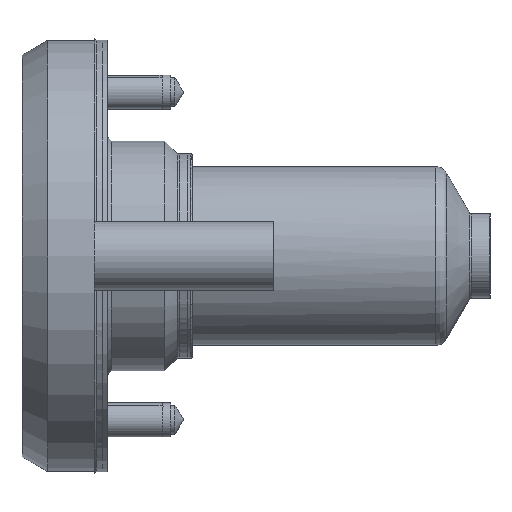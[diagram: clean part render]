
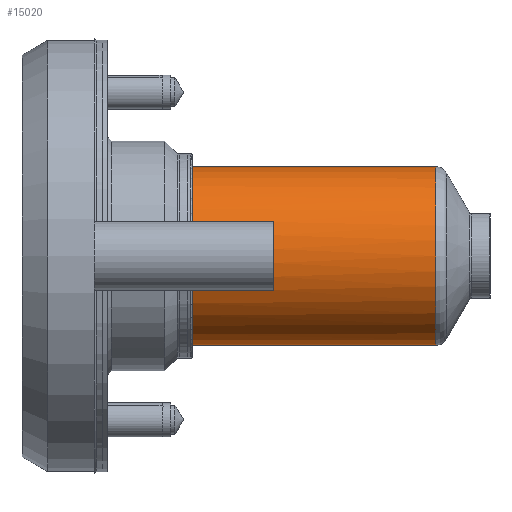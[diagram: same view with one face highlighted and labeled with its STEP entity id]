
A CAD part, left-side view. The second image highlights one B-rep face of the part: STEP entity #15020.
In plain terms, the highlighted cylindrical face has radius 21 mm (diameter 42 mm), a partial arc.
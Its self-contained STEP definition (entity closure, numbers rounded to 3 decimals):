
#377 = AXIS2_PLACEMENT_3D ( 'NONE', #9352, #9497, #7148 ) ;
#954 = ORIENTED_EDGE ( 'NONE', *, *, #21603, .F. ) ;
#1030 = DIRECTION ( 'NONE',  ( 0., 0., -1. ) ) ;
#1055 = CARTESIAN_POINT ( 'NONE',  ( 0., -72.228, 0. ) ) ;
#1283 = EDGE_CURVE ( 'NONE', #21577, #19806, #12819, .T. ) ;
#1598 = CARTESIAN_POINT ( 'NONE',  ( -19.416, -93.07, -8. ) ) ;
#2076 = ORIENTED_EDGE ( 'NONE', *, *, #13864, .T. ) ;
#2157 = DIRECTION ( 'NONE',  ( 0., -1., 0. ) ) ;
#2428 = CARTESIAN_POINT ( 'NONE',  ( -19.416, -15., -8. ) ) ;
#2855 = CARTESIAN_POINT ( 'NONE',  ( 0., -72.228, 21. ) ) ;
#3035 = CARTESIAN_POINT ( 'NONE',  ( 0., -72.228, -21. ) ) ;
#3545 = CARTESIAN_POINT ( 'NONE',  ( 0., -15., 0. ) ) ;
#3690 = LINE ( 'NONE', #1598, #6249 ) ;
#3813 = CARTESIAN_POINT ( 'NONE',  ( 0., -93.07, -21. ) ) ;
#3866 = ORIENTED_EDGE ( 'NONE', *, *, #22743, .F. ) ;
#4685 = VECTOR ( 'NONE', #8514, 1000. ) ;
#5403 = ORIENTED_EDGE ( 'NONE', *, *, #1283, .T. ) ;
#5897 = DIRECTION ( 'NONE',  ( 0., -1., 0. ) ) ;
#6132 = ORIENTED_EDGE ( 'NONE', *, *, #25282, .F. ) ;
#6249 = VECTOR ( 'NONE', #19540, 1000. ) ;
#7148 = DIRECTION ( 'NONE',  ( 0., 0., -1. ) ) ;
#7437 = DIRECTION ( 'NONE',  ( 0., -1., 0. ) ) ;
#8514 = DIRECTION ( 'NONE',  ( 0., -1., 0. ) ) ;
#8552 = CIRCLE ( 'NONE', #15145, 21. ) ;
#9068 = CARTESIAN_POINT ( 'NONE',  ( 0., -15., 0. ) ) ;
#9186 = ORIENTED_EDGE ( 'NONE', *, *, #18751, .T. ) ;
#9352 = CARTESIAN_POINT ( 'NONE',  ( 0., -93.07, 0. ) ) ;
#9497 = DIRECTION ( 'NONE',  ( 0., -1., 0. ) ) ;
#10301 = AXIS2_PLACEMENT_3D ( 'NONE', #3545, #7437, #1030 ) ;
#11492 = CARTESIAN_POINT ( 'NONE',  ( 0., -15., 21. ) ) ;
#11813 = VERTEX_POINT ( 'NONE', #18517 ) ;
#11883 = DIRECTION ( 'NONE',  ( 0., 0., -1. ) ) ;
#12068 = VERTEX_POINT ( 'NONE', #14307 ) ;
#12114 = DIRECTION ( 'NONE',  ( 0., -1., 0. ) ) ;
#12817 = AXIS2_PLACEMENT_3D ( 'NONE', #1055, #27850, #11883 ) ;
#12819 = CIRCLE ( 'NONE', #26544, 21. ) ;
#13430 = VERTEX_POINT ( 'NONE', #2428 ) ;
#13441 = VECTOR ( 'NONE', #2157, 1000. ) ;
#13864 = EDGE_CURVE ( 'NONE', #13430, #11813, #23076, .T. ) ;
#14307 = CARTESIAN_POINT ( 'NONE',  ( -19.416, -34., 8. ) ) ;
#14799 = CARTESIAN_POINT ( 'NONE',  ( -19.416, -15., 8. ) ) ;
#15020 = ADVANCED_FACE ( 'NONE', ( #18096 ), #22825, .T. ) ;
#15145 = AXIS2_PLACEMENT_3D ( 'NONE', #20172, #22670, #15251 ) ;
#15251 = DIRECTION ( 'NONE',  ( 0., 0., 1. ) ) ;
#16024 = DIRECTION ( 'NONE',  ( 0., 0., -1. ) ) ;
#17269 = LINE ( 'NONE', #24364, #13441 ) ;
#18096 = FACE_OUTER_BOUND ( 'NONE', #25574, .T. ) ;
#18517 = CARTESIAN_POINT ( 'NONE',  ( 0., -15., -21. ) ) ;
#18751 = EDGE_CURVE ( 'NONE', #19806, #12068, #26414, .T. ) ;
#19459 = VERTEX_POINT ( 'NONE', #3035 ) ;
#19540 = DIRECTION ( 'NONE',  ( 0., -1., 0. ) ) ;
#19806 = VERTEX_POINT ( 'NONE', #14799 ) ;
#19933 = CIRCLE ( 'NONE', #12817, 21. ) ;
#20172 = CARTESIAN_POINT ( 'NONE',  ( 0., -34., 0. ) ) ;
#21577 = VERTEX_POINT ( 'NONE', #11492 ) ;
#21603 = EDGE_CURVE ( 'NONE', #26583, #12068, #8552, .T. ) ;
#22670 = DIRECTION ( 'NONE',  ( 0., 1., 0. ) ) ;
#22743 = EDGE_CURVE ( 'NONE', #28331, #19459, #19933, .T. ) ;
#22825 = CYLINDRICAL_SURFACE ( 'NONE', #377, 21. ) ;
#23076 = CIRCLE ( 'NONE', #10301, 21. ) ;
#23963 = EDGE_CURVE ( 'NONE', #13430, #26583, #3690, .T. ) ;
#24074 = ORIENTED_EDGE ( 'NONE', *, *, #23963, .F. ) ;
#24364 = CARTESIAN_POINT ( 'NONE',  ( 0., -93.07, 21. ) ) ;
#24489 = CARTESIAN_POINT ( 'NONE',  ( -19.416, -93.07, 8. ) ) ;
#24909 = VECTOR ( 'NONE', #5897, 1000. ) ;
#25282 = EDGE_CURVE ( 'NONE', #21577, #28331, #17269, .T. ) ;
#25574 = EDGE_LOOP ( 'NONE', ( #6132, #5403, #9186, #954, #24074, #2076, #26306, #3866 ) ) ;
#26168 = LINE ( 'NONE', #3813, #24909 ) ;
#26306 = ORIENTED_EDGE ( 'NONE', *, *, #27772, .T. ) ;
#26414 = LINE ( 'NONE', #24489, #4685 ) ;
#26544 = AXIS2_PLACEMENT_3D ( 'NONE', #9068, #12114, #16024 ) ;
#26583 = VERTEX_POINT ( 'NONE', #26767 ) ;
#26767 = CARTESIAN_POINT ( 'NONE',  ( -19.416, -34., -8. ) ) ;
#27772 = EDGE_CURVE ( 'NONE', #11813, #19459, #26168, .T. ) ;
#27850 = DIRECTION ( 'NONE',  ( 0., -1., 0. ) ) ;
#28331 = VERTEX_POINT ( 'NONE', #2855 ) ;
